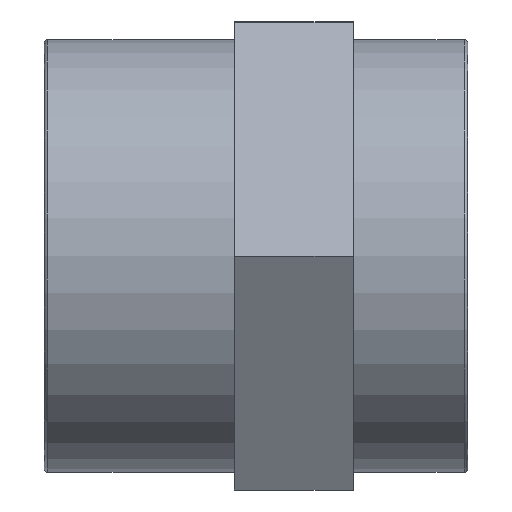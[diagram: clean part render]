
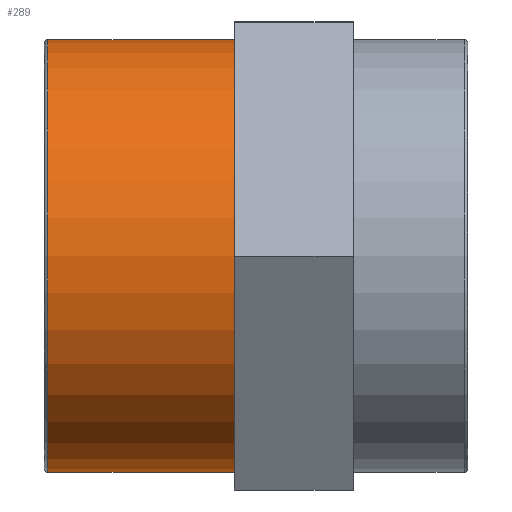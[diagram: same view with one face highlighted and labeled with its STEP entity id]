
A CAD part, top view. The second image highlights one B-rep face of the part: STEP entity #289.
In plain terms, the highlighted cylindrical face has radius 29.149 mm (diameter 58.298 mm), a full revolution.
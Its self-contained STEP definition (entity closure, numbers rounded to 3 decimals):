
#54=CYLINDRICAL_SURFACE('',#323,29.149);
#77=FACE_BOUND('',#123,.T.);
#92=FACE_OUTER_BOUND('',#122,.T.);
#122=EDGE_LOOP('',(#230));
#123=EDGE_LOOP('',(#231));
#150=CIRCLE('',#322,29.149);
#151=CIRCLE('',#324,29.149);
#164=VERTEX_POINT('',#458);
#165=VERTEX_POINT('',#461);
#190=EDGE_CURVE('',#164,#164,#150,.T.);
#191=EDGE_CURVE('',#165,#165,#151,.T.);
#230=ORIENTED_EDGE('',*,*,#191,.T.);
#231=ORIENTED_EDGE('',*,*,#190,.F.);
#289=ADVANCED_FACE('',(#92,#77),#54,.T.);
#322=AXIS2_PLACEMENT_3D('',#459,#378,#379);
#323=AXIS2_PLACEMENT_3D('',#460,#380,#381);
#324=AXIS2_PLACEMENT_3D('',#462,#382,#383);
#378=DIRECTION('center_axis',(-1.,0.,0.));
#379=DIRECTION('ref_axis',(0.,1.,0.));
#380=DIRECTION('center_axis',(-1.,0.,0.));
#381=DIRECTION('ref_axis',(0.,-1.,0.));
#382=DIRECTION('center_axis',(-1.,0.,0.));
#383=DIRECTION('ref_axis',(0.,0.,1.));
#458=CARTESIAN_POINT('',(-28.052,-29.149,0.));
#459=CARTESIAN_POINT('Origin',(-28.052,0.,0.));
#460=CARTESIAN_POINT('Origin',(-15.7,0.,0.));
#461=CARTESIAN_POINT('',(-2.9,-29.149,0.));
#462=CARTESIAN_POINT('Origin',(-2.9,0.,0.));
